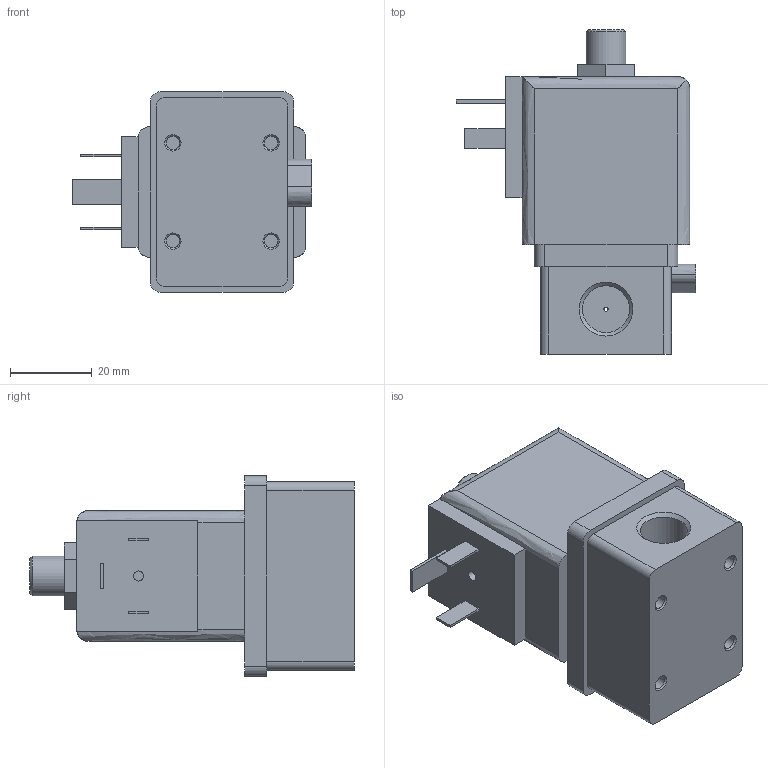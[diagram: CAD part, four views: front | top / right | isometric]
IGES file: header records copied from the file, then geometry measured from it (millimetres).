
Start section: Data from Parasolid IGES Translator 26.0.171, Copyright(c) 2006 Siemens PLM Software. All Rights Reserved.
Global section: file name: 6014-126147-3_2-way_Solenoid_Valve_direct-acting.igs; native system: By Siemens PLM Incorporated; preprocessor: XPlus GENERIC/IGES 26.0.171; author: Noname; organization: Noname; date: 20240813.154323; units: millimetre
Bounding box: 58.45 x 79.3 x 49 mm (x, y, z)
Surface area: 16600.3 mm2 (no closed solid volume)
Topology: 0 solids, 0 shells, 92 faces, 432 edges, 404 vertices
Faces by surface type: extrusion 58, revolution 34
